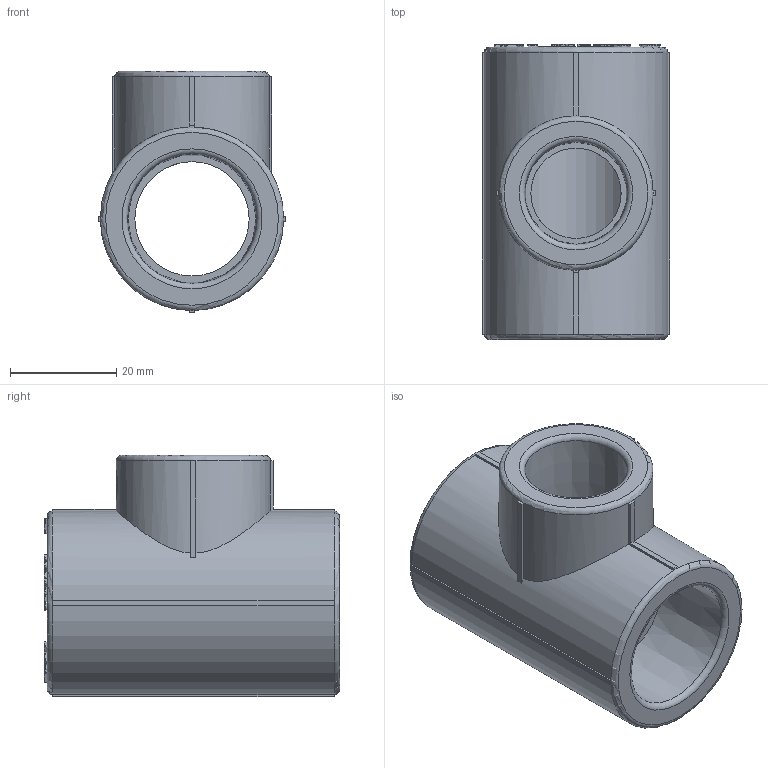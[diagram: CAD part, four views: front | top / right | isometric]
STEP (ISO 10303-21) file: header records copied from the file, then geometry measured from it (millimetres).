
FILE_DESCRIPTION(('STEP AP203'), '1');
FILE_NAME('ÂÐ.752241.053 - VTp.735.0.025020025', '', ('UNSPECIFIED'), ('UNSPECIFIED'), 'C3D Converter', 'C3D Toolkit', '');
FILE_SCHEMA(('CONFIG_CONTROL_DESIGN'));
Length unit declared in the file: millimetre
Products named in the file (1): ВР.752241.053
Bounding box: 35.3 x 55.5 x 45.4 mm (x, y, z)
Volume: 31240.6 mm3; surface area: 13018.1 mm2
Topology: 1 solids, 1 shells, 1116 faces, 3133 edges, 2080 vertices
Faces by surface type: extrusion 660, plane 412, cylinder 35, torus 6, cone 3
Full cylindrical faces by diameter (mm): 6 x1, 17 x1, 21.5 x1
Entity records: 41061 total; most frequent: CARTESIAN_POINT 15723, ORIENTED_EDGE 6242, DIRECTION 3123, EDGE_CURVE 3121, VECTOR 2119, VERTEX_POINT 2080, B_SPLINE_CURVE_WITH_KNOTS 1985, LINE 1459
